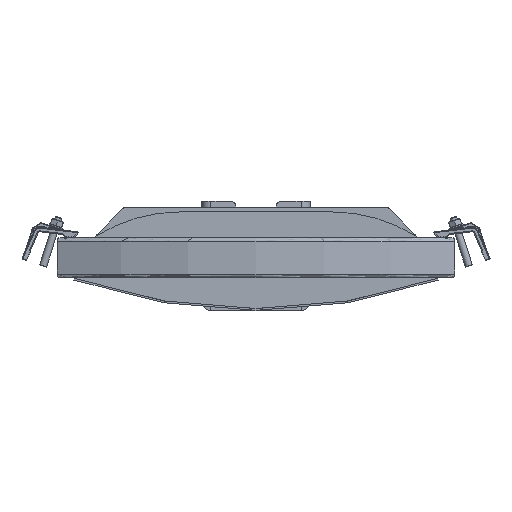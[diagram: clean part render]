
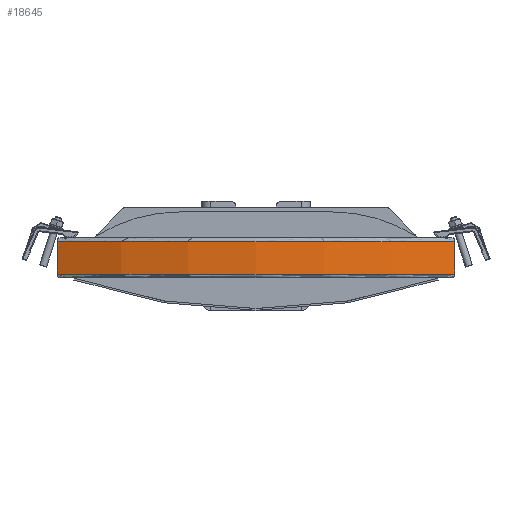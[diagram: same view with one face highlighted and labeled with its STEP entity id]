
A CAD part, front view. The second image highlights one B-rep face of the part: STEP entity #18645.
In plain terms, the highlighted cylindrical face has radius 492 mm (diameter 984 mm), a partial arc.
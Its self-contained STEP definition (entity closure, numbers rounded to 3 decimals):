
#4738 = CARTESIAN_POINT ( 'NONE',  ( 220.375, 40.115, 40. ) ) ;
#5286 = FACE_OUTER_BOUND ( 'NONE', #58435, .T. ) ;
#5953 = LINE ( 'NONE', #4738, #31855 ) ;
#6650 = EDGE_CURVE ( 'NONE', #49175, #10680, #25017, .T. ) ;
#6767 = DIRECTION ( 'NONE',  ( 0., 0., -1. ) ) ;
#10034 = ORIENTED_EDGE ( 'NONE', *, *, #6650, .T. ) ;
#10680 = VERTEX_POINT ( 'NONE', #19155 ) ;
#10849 = CARTESIAN_POINT ( 'NONE',  ( 220.375, 40.115, 4. ) ) ;
#11510 = DIRECTION ( 'NONE',  ( 0., 0., -1. ) ) ;
#13495 = VERTEX_POINT ( 'NONE', #10849 ) ;
#16333 = CARTESIAN_POINT ( 'NONE',  ( 0., 480., 4. ) ) ;
#18645 = ADVANCED_FACE ( 'NONE', ( #5286 ), #57997, .T. ) ;
#19155 = CARTESIAN_POINT ( 'NONE',  ( -220.375, 40.115, 4. ) ) ;
#19490 = CARTESIAN_POINT ( 'NONE',  ( 0., 480., 0. ) ) ;
#23760 = CARTESIAN_POINT ( 'NONE',  ( -220.375, 40.115, 40. ) ) ;
#24960 = AXIS2_PLACEMENT_3D ( 'NONE', #16333, #54493, #35080 ) ;
#25017 = LINE ( 'NONE', #30635, #33948 ) ;
#25522 = CARTESIAN_POINT ( 'NONE',  ( 220.375, 40.115, 40. ) ) ;
#30635 = CARTESIAN_POINT ( 'NONE',  ( -220.375, 40.115, 40. ) ) ;
#31379 = EDGE_CURVE ( 'NONE', #34906, #49175, #49344, .T. ) ;
#31855 = VECTOR ( 'NONE', #47951, 1000. ) ;
#33948 = VECTOR ( 'NONE', #6767, 1000. ) ;
#34906 = VERTEX_POINT ( 'NONE', #25522 ) ;
#35080 = DIRECTION ( 'NONE',  ( -1., 0., 0. ) ) ;
#36756 = AXIS2_PLACEMENT_3D ( 'NONE', #19490, #43256, #52946 ) ;
#39368 = AXIS2_PLACEMENT_3D ( 'NONE', #54370, #11510, #39390 ) ;
#39390 = DIRECTION ( 'NONE',  ( -1., 0., 0. ) ) ;
#40938 = ORIENTED_EDGE ( 'NONE', *, *, #48678, .F. ) ;
#41319 = ORIENTED_EDGE ( 'NONE', *, *, #31379, .T. ) ;
#42514 = EDGE_CURVE ( 'NONE', #13495, #10680, #48932, .T. ) ;
#43256 = DIRECTION ( 'NONE',  ( 0., 0., -1. ) ) ;
#47951 = DIRECTION ( 'NONE',  ( 0., 0., -1. ) ) ;
#48678 = EDGE_CURVE ( 'NONE', #34906, #13495, #5953, .T. ) ;
#48932 = CIRCLE ( 'NONE', #24960, 492. ) ;
#49175 = VERTEX_POINT ( 'NONE', #23760 ) ;
#49344 = CIRCLE ( 'NONE', #39368, 492. ) ;
#52946 = DIRECTION ( 'NONE',  ( -1., 0., 0. ) ) ;
#54370 = CARTESIAN_POINT ( 'NONE',  ( 0., 480., 40. ) ) ;
#54493 = DIRECTION ( 'NONE',  ( 0., 0., -1. ) ) ;
#57997 = CYLINDRICAL_SURFACE ( 'NONE', #36756, 492. ) ;
#58435 = EDGE_LOOP ( 'NONE', ( #40938, #41319, #10034, #59101 ) ) ;
#59101 = ORIENTED_EDGE ( 'NONE', *, *, #42514, .F. ) ;
